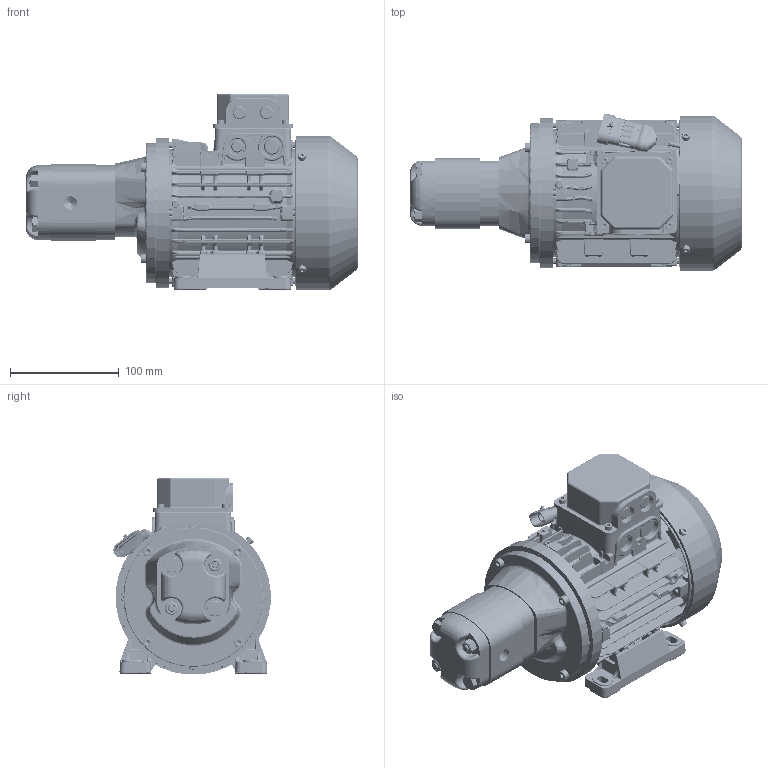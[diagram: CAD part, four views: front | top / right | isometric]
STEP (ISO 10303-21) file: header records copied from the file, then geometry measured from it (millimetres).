
FILE_DESCRIPTION(/* description */ (''),/* implementation_level */ '2;1');
FILE_NAME(/* name */ 'Z:\SITO WEB 2023\Elettropompe\Elettropompe AC\D.110 mm\AMP110.GR1.stp',/* time_stamp */ '2023-09-18T15:20:56+02:00',/* author */ ('cad3'),/* organization */ (''),/* preprocessor_version */ 'ST-DEVELOPER v18.1',/* originating_system */ 'Autodesk Inventor 2022',/* authorisation */ '');
FILE_SCHEMA (('AUTOMOTIVE_DESIGN { 1 0 10303 214 3 1 1 }'));
Products named in the file (1): AMP110.GR1
Bounding box: 305.5 x 144.72 x 181.23 mm (x, y, z)
Volume: 1173650.8 mm3; surface area: 463476.3 mm2
Topology: 9 solids, 33 shells, 12090 faces, 31339 edges, 18728 vertices
Faces by surface type: plane 4791, cylinder 2771, bspline 2723, torus 832, sphere 496, cone 477
Full cylindrical faces by diameter (mm): 1.2 x4, 2 x6, 2.5 x2, 3.2 x11, 3.242 x8, 4 x13, 4.134 x12, 4.2 x2, 4.3 x2, 4.5 x8, 4.917 x4, 5 x12, 5.3 x12, 5.5 x16, 5.94 x2, 6 x12, 6.647 x2, 6.7 x1, 7 x8, 8 x2, 8.5 x16, 9 x8, 9.5 x4, 11.6 x2, 12 x2, 12.376 x1, 14 x1, 14.6 x2, 16.376 x1, 17 x1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
Entity records: 509726 total; most frequent: CARTESIAN_POINT 212391, ORIENTED_EDGE 61978, DIRECTION 59026, EDGE_CURVE 30989, AXIS2_PLACEMENT_3D 22707, VERTEX_POINT 18754, LINE 13612, VECTOR 13612
